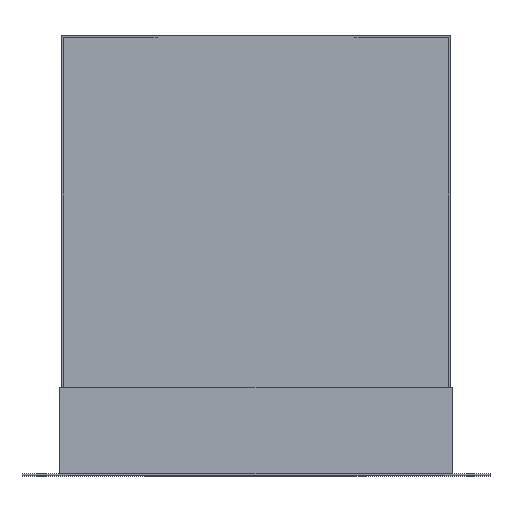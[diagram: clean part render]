
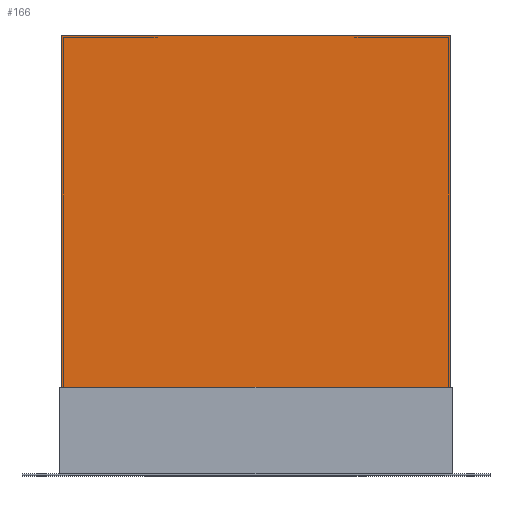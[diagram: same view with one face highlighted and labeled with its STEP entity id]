
A CAD part, top view. The second image highlights one B-rep face of the part: STEP entity #166.
In plain terms, the highlighted planar face has unit normal (0, 0, 1).
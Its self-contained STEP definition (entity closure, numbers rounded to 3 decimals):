
#166=ADVANCED_FACE('',(#363),#364,.T.);
#363=FACE_OUTER_BOUND('',#578,.T.);
#364=PLANE('',#579);
#578=EDGE_LOOP('',(#1033,#1034,#1035,#1036));
#579=AXIS2_PLACEMENT_3D('',#1037,#1038,#1039);
#1033=ORIENTED_EDGE('',*,*,#1307,.T.);
#1034=ORIENTED_EDGE('',*,*,#1395,.T.);
#1035=ORIENTED_EDGE('',*,*,#1396,.T.);
#1036=ORIENTED_EDGE('',*,*,#1397,.T.);
#1037=CARTESIAN_POINT('',(0.0,500.5,442.5));
#1038=DIRECTION('',(0.0,0.0,1.0));
#1039=DIRECTION('',(1.0,0.0,0.0));
#1307=EDGE_CURVE('',#1602,#1600,#1603,.T.);
#1395=EDGE_CURVE('',#1600,#1722,#1723,.T.);
#1396=EDGE_CURVE('',#1722,#1724,#1725,.T.);
#1397=EDGE_CURVE('',#1724,#1602,#1726,.T.);
#1600=VERTEX_POINT('',#1981);
#1602=VERTEX_POINT('',#1984);
#1603=LINE('',#1985,#1986);
#1722=VERTEX_POINT('',#2155);
#1723=LINE('',#2156,#2157);
#1724=VERTEX_POINT('',#2158);
#1725=LINE('',#2159,#2160);
#1726=LINE('',#2161,#2162);
#1981=CARTESIAN_POINT('',(442.5,200.0,442.5));
#1984=CARTESIAN_POINT('',(-442.5,200.0,442.5));
#1985=CARTESIAN_POINT('',(0.0,200.0,442.5));
#1986=VECTOR('',#2374,1.0);
#2155=CARTESIAN_POINT('',(442.5,1000.0,442.5));
#2156=CARTESIAN_POINT('',(442.5,500.5,442.5));
#2157=VECTOR('',#2461,1.0);
#2158=CARTESIAN_POINT('',(-442.5,1000.0,442.5));
#2159=CARTESIAN_POINT('',(0.0,1000.0,442.5));
#2160=VECTOR('',#2462,1.0);
#2161=CARTESIAN_POINT('',(-442.5,500.5,442.5));
#2162=VECTOR('',#2463,1.0);
#2374=DIRECTION('',(1.0,0.0,-0.0));
#2461=DIRECTION('',(0.0,1.0,0.0));
#2462=DIRECTION('',(-1.0,0.0,0.0));
#2463=DIRECTION('',(0.0,-1.0,0.0));
